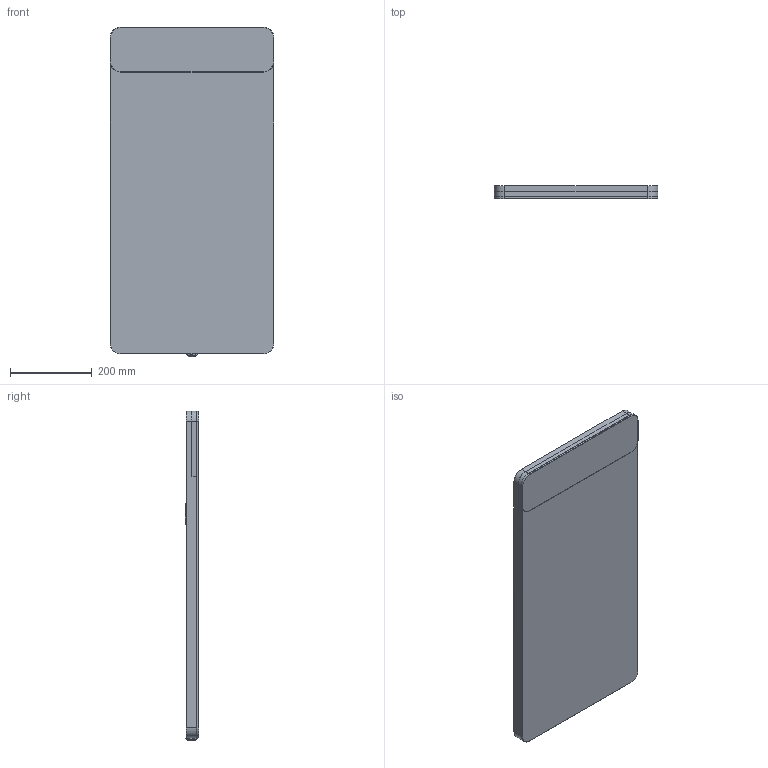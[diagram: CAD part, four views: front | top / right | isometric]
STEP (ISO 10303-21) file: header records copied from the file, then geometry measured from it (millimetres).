
FILE_DESCRIPTION(/* description */ ('STEP AP214'),/* implementation_level */ '2;1');
FILE_NAME(/* name */ 'C:\Planerdaten\Export PLA\819240000\stp\819240000.stp',/* time_stamp */ '2020-03-06T07:58:37+01:00',/* author */ (''),/* organization */ (''),/* preprocessor_version */ 'ST-DEVELOPER v16.13',/* originating_system */ 'Autodesk Inventor 2018',/* authorisation */ '');
FILE_SCHEMA (('AUTOMOTIVE_DESIGN { 1 0 10303 214 3 1 1 }'));
Length unit declared in the file: millimetre
Products named in the file (11): LiSpgl Ge+Opt B40 Bel-oben; RAMA ZEWNÊTRZNA LUSTRA 400X800; SZYBA-LUS-400x800-M; RAM-WEWN-LUS-400x800; PPR-PRO-25x20x330; PPR-PRO-25x20x375; zaslepka do profilu 25x20_2; WYL-WAND-19-LED-GR (Wszystkie elementy Content Center wy³¹czo
ne); WYL-WAND-19-LED-GR; JIS B 1181 normal. Klasa 3 - Metryczny Klasa 3 normal. M16; HAK MONTA¯OWY
Assembly tree (13 placements, depth 3):
  LiSpgl Ge+Opt B40 Bel-oben
    RAMA ZEWNÊTRZNA LUSTRA 400X800
    SZYBA-LUS-400x800-M
    RAM-WEWN-LUS-400x800
      PPR-PRO-25x20x330
      PPR-PRO-25x20x375
      zaslepka do profilu 25x20_2  x3
    WYL-WAND-19-LED-GR (Wszystkie elementy Content Center wy³¹czo
ne)
      WYL-WAND-19-LED-GR
      JIS B 1181 normal. Klasa 3 - Metryczny Klasa 3 normal. M16
    HAK MONTA¯OWY  x2
Bounding box: 400 x 32.02 x 807.5 mm (x, y, z)
Volume: 1899574.1 mm3; surface area: 980272.5 mm2
Topology: 11 solids, 11 shells, 310 faces, 787 edges, 498 vertices
Faces by surface type: plane 193, cylinder 88, cone 17, sphere 12
Full cylindrical faces by diameter (mm): 4.8 x2, 6 x2, 13 x1, 15 x1, 15.5 x1, 19 x2, 19.02 x2, 22 x1
Entity records: 8190 total; most frequent: CARTESIAN_POINT 1413, DIRECTION 1352, ORIENTED_EDGE 1302, EDGE_CURVE 651, LINE 468, VECTOR 468, AXIS2_PLACEMENT_3D 442, VERTEX_POINT 431
